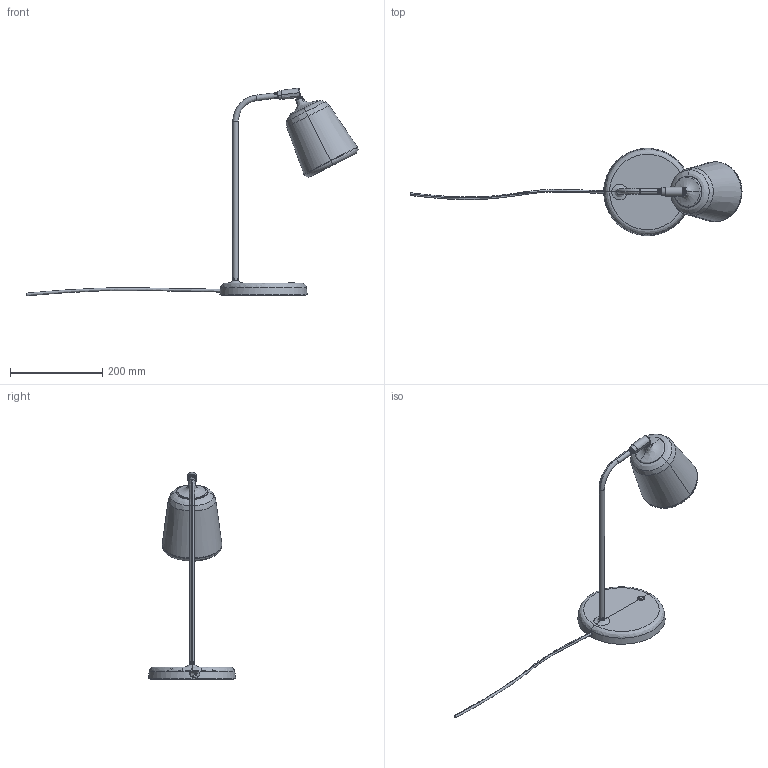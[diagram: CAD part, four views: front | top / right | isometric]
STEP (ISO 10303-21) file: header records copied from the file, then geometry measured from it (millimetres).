
FILE_DESCRIPTION(/* description */ (''),/* implementation_level */ '2;1');
FILE_NAME(/* name */ 'Material Table Lamp 2019',/* time_stamp */ '2019-04-16T12:54:05+02:00',/* author */ (''),/* organization */ (''),/* preprocessor_version */ 'ST-DEVELOPER v15',/* originating_system */ '',/* authorisation */ '');
FILE_SCHEMA (('AUTOMOTIVE_DESIGN'));
Length unit declared in the file: millimetre
Products named in the file (18): Document; 4; 3; 2; 1; TOP1; BREP_4_7_A; BREP_5_16_A; TOP_YAGUAN_6_A; E14_5_A; 3-1_2_A; COVER_A; RING_2_A; BREP_6_01_A; 125_17_A; PRT0006-1_15_A; BREP_9_12_A; DENGPAO_3_A
Assembly tree (19 placements, depth 2):
  Document
    4  x2
    3
    2
    1
    TOP1
    BREP_4_7_A
    BREP_5_16_A
    TOP_YAGUAN_6_A  x2
    E14_5_A
    3-1_2_A
    COVER_A
    RING_2_A
    BREP_6_01_A
    125_17_A
    PRT0006-1_15_A
    BREP_9_12_A
    DENGPAO_3_A
Bounding box: 721.4 x 189.63 x 451.31 mm (x, y, z)
Volume: 1329923.6 mm3; surface area: 497434 mm2
Topology: 20 solids, 20 shells, 647 faces, 2135 edges, 1535 vertices
Faces by surface type: bspline 527, plane 120
Entity records: 49296 total; most frequent: CARTESIAN_POINT 38501, ORIENTED_EDGE 3542, EDGE_CURVE 1771, B_SPLINE_CURVE_WITH_KNOTS 1295, VERTEX_POINT 1265, EDGE_LOOP 612, ADVANCED_FACE 556, FACE_OUTER_BOUND 556
